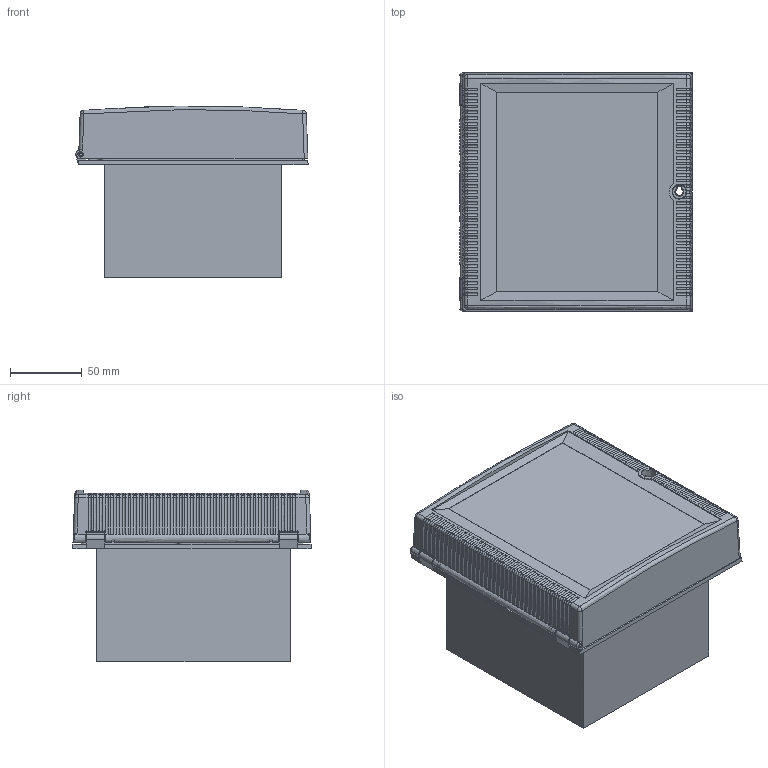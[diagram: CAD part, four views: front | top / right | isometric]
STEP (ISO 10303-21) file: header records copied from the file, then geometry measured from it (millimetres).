
FILE_DESCRIPTION((''),'2;1');
FILE_NAME('D:\scratch\ideas\Intersafe_assy_composite.stp', '2006-03-08T14:19:23',('User'),('SDRC'),'I-DEAS Master Series 9','UNIX', 'Yes');
FILE_SCHEMA(('AUTOMOTIVE_DESIGN { 1 0 10303 214 0 1 1 1 }'));
Length unit declared in the file: inch
Products named in the file (6): Intersafe_assy_composite; assy-hinged window(6.5x6.3x1.5); 33d14001; 33d13001; components_poly; panel_intersafe_composite
Assembly tree (5 placements, depth 3):
  Intersafe_assy_composite
    assy-hinged window(6.5x6.3x1.5)
      33d14001
      33d13001
    components_poly
    panel_intersafe_composite
Bounding box: 161.7 x 166.09 x 119.64 mm (x, y, z)
Volume: 1622470.2 mm3; surface area: 279397.6 mm2
Topology: 4 solids, 4 shells, 1334 faces, 3225 edges, 1912 vertices
Faces by surface type: bspline 1334
Entity records: 47729 total; most frequent: CARTESIAN_POINT 25230, ORIENTED_EDGE 6376, EDGE_CURVE 3188, OVER_RIDING_STYLED_ITEM 2023, VERTEX_POINT 1912, B_SPLINE_CURVE_WITH_KNOTS 1571, STYLED_ITEM 1473, EDGE_LOOP 1410
